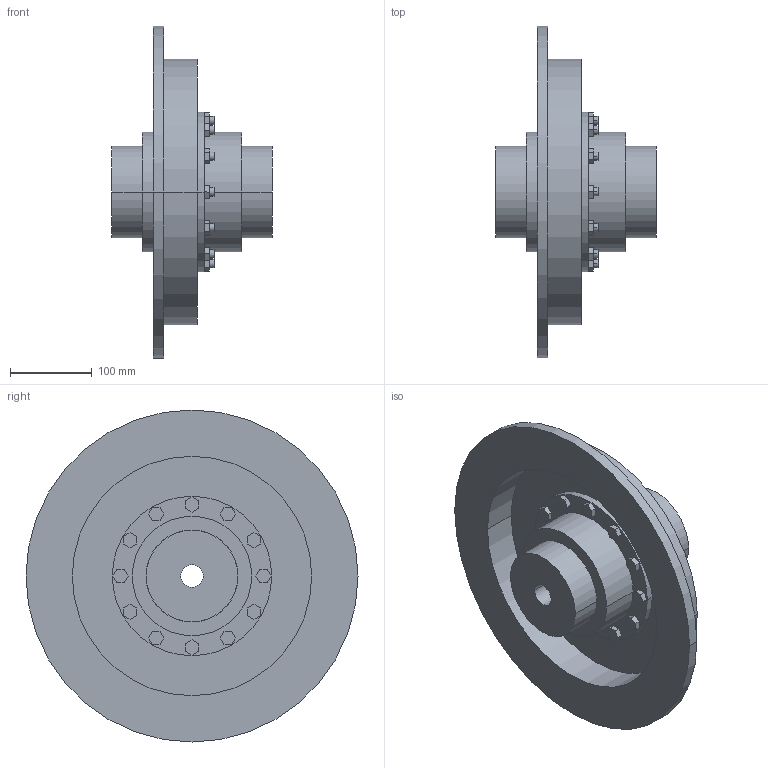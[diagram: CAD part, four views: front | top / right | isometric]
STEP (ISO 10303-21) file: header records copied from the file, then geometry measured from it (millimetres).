
FILE_DESCRIPTION((''),'2;1');
FILE_NAME('A19126000-0_ASM','2018-11-13T',('AB_Roschiwal'),('RENK AG'),'PRO/ENGINEER BY PARAMETRIC TECHNOLOGY CORPORATION, 2015440','PRO/ENGINEER BY PARAMETRIC TECHNOLOGY CORPORATION, 2015440','');
FILE_SCHEMA(('CONFIG_CONTROL_DESIGN'));
Length unit declared in the file: millimetre
Products named in the file (4): LBKT70_GEHAEUSE; LBKT70_NABE; LBKT70_BREMSSCHEIBE; A19126000-0_ASM
Assembly tree (4 placements, depth 2):
  A19126000-0_ASM
    LBKT70_GEHAEUSE
    LBKT70_NABE  x2
    LBKT70_BREMSSCHEIBE
Bounding box: 196 x 406 x 406 mm (x, y, z)
Volume: 4665214 mm3; surface area: 651814 mm2
Topology: 4 solids, 4 shells, 294 faces, 708 edges, 472 vertices
Faces by surface type: plane 202, cylinder 92
Entity records: 8412 total; most frequent: DIRECTION 1432, CARTESIAN_POINT 1430, ORIENTED_EDGE 1368, EDGE_CURVE 684, VECTOR 516, LINE 516, AXIS2_PLACEMENT_3D 458, VERTEX_POINT 456
